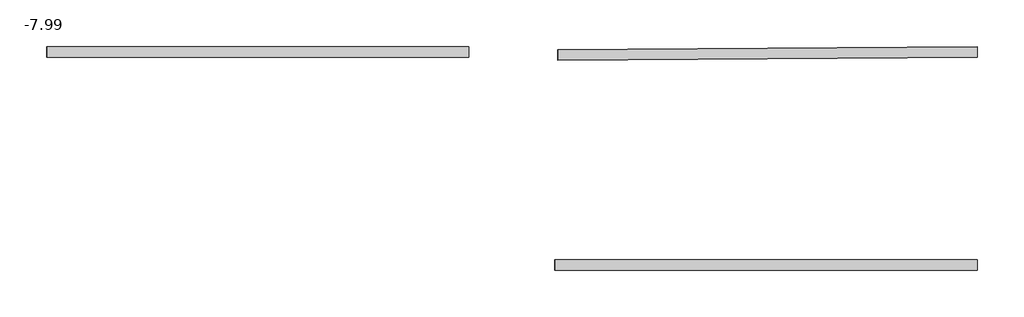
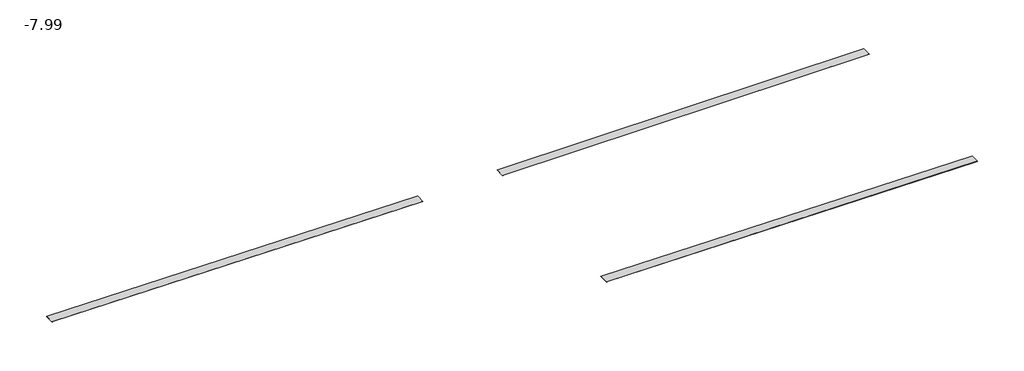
# One storey, incomplete: 3 proxies.
"""IFC4 building model written with IfcOpenShell, lengths in millimetres."""

from ifc_helpers import new_model, si_unit, origin, place, context, project, spatial, transform, mapped, element, save
from components import generic_models_691fac9f, generic_models_c3372ec3, generic_models_d2abf90b

model = new_model("IFC4")

# Units and contexts
model_context = context("Model", 3, world=origin())
ifc_project = project(units=[si_unit("LENGTHUNIT", "METRE", prefix="MILLI")], contexts=[model_context])

# Site, building, storey
site = spatial("IfcSite", under=ifc_project)
building = spatial("IfcBuilding", under=site)
storey = spatial("IfcBuildingStorey", under=building, Name="-7.99", Elevation=-1040.708763)

# Proxies
placement = place(None, origin())
generic_models_shape = generic_models_691fac9f(model_context)
element("IfcBuildingElementProxy", 1, Name="Sika® CarboDur® M914 : Sika® CarboDur® S1012", ObjectType="Sika® CarboDur® M914 : Sika® CarboDur® S1012", at=placement, inside=storey, context=model_context, shape_type="MappedRepresentation", body=[
    mapped(generic_models_shape, transform((56186.8593449, 28093.3920265, -995.9344567), x_axis=(-0.9999771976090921, 0.0, 0.006753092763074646), y_axis=(0.0, 1.0, 0.0), z_axis=(-0.006753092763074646, 0.0, -0.9999771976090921))),
])
generic_models_2_shape = generic_models_c3372ec3(model_context)
element("IfcBuildingElementProxy", 2, Name="Sika® CarboDur® M914 : Sika® CarboDur® S1012", ObjectType="Sika® CarboDur® M914 : Sika® CarboDur® S1012", at=placement, inside=storey, context=model_context, shape_type="MappedRepresentation", body=[
    mapped(generic_models_2_shape, transform((61044.8135381, 28079.6199211, -1001.1298251), x_axis=(0.999944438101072, 0.008106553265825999, -0.006738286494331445), y_axis=(0.008106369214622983, -0.999967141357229, -5.462607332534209e-05), z_axis=(-0.0067385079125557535, 0.0, -0.9999772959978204))),
])
generic_models_3_shape = generic_models_d2abf90b(model_context)
element("IfcBuildingElementProxy", 3, Name="Sika® CarboDur® M914 : Sika® CarboDur® S1012", ObjectType="Sika® CarboDur® M914 : Sika® CarboDur® S1012", at=placement, inside=storey, context=model_context, shape_type="MappedRepresentation", body=[
    mapped(generic_models_3_shape, transform((61030.0547328, 26063.3920265, -999.4763157), x_axis=(0.9999772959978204, 0.0, -0.0067385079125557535), y_axis=(0.0, -1.0, 0.0), z_axis=(-0.0067385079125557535, 0.0, -0.9999772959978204))),
])

save(model, "model.ifc")
